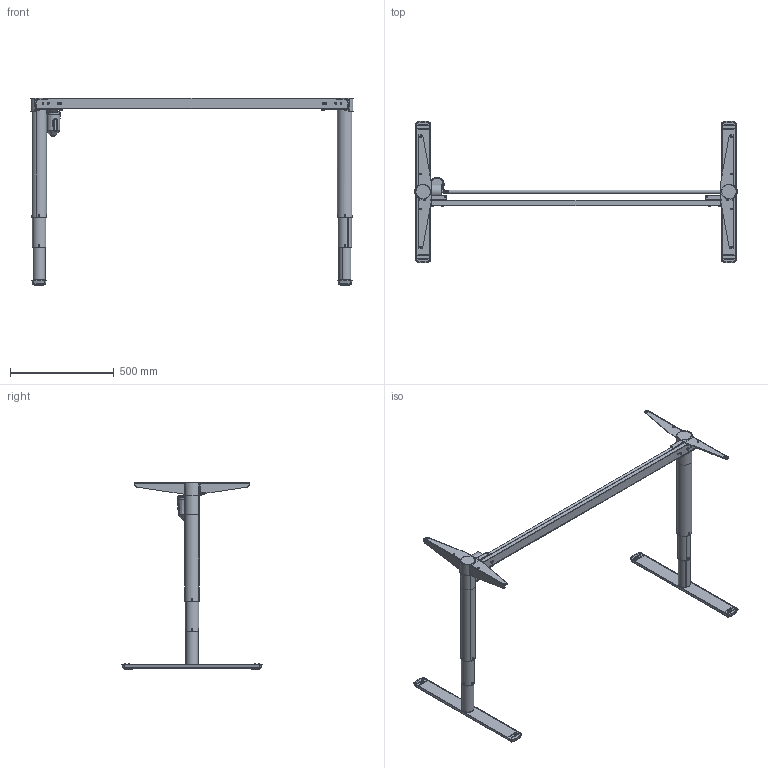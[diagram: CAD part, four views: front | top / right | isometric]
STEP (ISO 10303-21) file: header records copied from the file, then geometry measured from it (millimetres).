
FILE_DESCRIPTION (( 'STEP AP203' ), '1' );
FILE_NAME ('Tech-draw_501-49_XX152.STEP', '2019-09-25T06:55:30', ( '' ), ( '' ), 'SwSTEP 2.0', 'SolidWorks 2018', '' );
FILE_SCHEMA (( 'CONFIG_CONTROL_DESIGN' ));
Length unit declared in the file: millimetre
Products named in the file (35): 138140_silver1; 138860_shell view; 332570; 344290_shell view; 324520_silver; 343610_shell view; 347920_152; 343600; Tech-draw_501-49_XX152; 138160_silver1; 344300; 138110_silver; 347910_152; 344210; 139080_silver1; 344150_shell view; 352590; 346600; 344630._›72silver; 340760; 344170; 138120_silver1; 138130_silver; 138090_silver; 332560; 341220; 144260_152; 344430_silver; 148950_501-49 XS152; 138100_silver1; 340560; 344180; 138150_silver; 344220_shell view; 344630._›65silver
Assembly tree (62 placements, depth 6):
  Tech-draw_501-49_XX152
    148950_501-49 XS152
      347910_152
      144260_152
        347920_152
        340560
        341220
      138090_silver
        138100_silver1
          343600
          344170
          138860_shell view
            344150_shell view
            332560
          346600
        138110_silver
          138120_silver1
            343610_shell view
            344210
            344220_shell view
          139080_silver1
            344290_shell view
          344630._›65silver  x4
        324520_silver  x2
        344430_silver
        344630._›72silver  x4
        352590
      138130_silver
        138140_silver1
          344300
          138860_shell view
            344150_shell view
            332560
          344180
        138150_silver
          138160_silver1
            343610_shell view
            344210
            344220_shell view
          139080_silver1
            344290_shell view
          344630._›65silver  x4
        324520_silver  x2
        344630._›72silver  x4
      340760  x4
      332570  x4
Bounding box: 1551.5 x 679.46 x 902.5 mm (x, y, z)
Volume: 2567418.8 mm3; surface area: 2719060.2 mm2
Topology: 51 solids, 51 shells, 4836 faces, 12022 edges, 7257 vertices
Faces by surface type: plane 1686, cylinder 1650, bspline 648, torus 439, sphere 256, cone 157
Full cylindrical faces by diameter (mm): 2.8 x4, 3 x2, 4.6 x4, 5 x4, 6 x10, 7 x8, 7.6 x4, 8 x12, 9 x4, 10 x8, 11.9 x2, 12 x1, 13 x2, 15 x4, 16 x2, 18 x1, 20 x1, 37.6 x8, 58 x2, 58.35 x2, 60 x1, 65 x2, 66.6 x1, 72 x2
Entity records: 81129 total; most frequent: CARTESIAN_POINT 34428, ORIENTED_EDGE 9022, DIRECTION 8574, EDGE_CURVE 4511, AXIS2_PLACEMENT_3D 3316, VERTEX_POINT 2878, EDGE_LOOP 2073, VECTOR 1942
